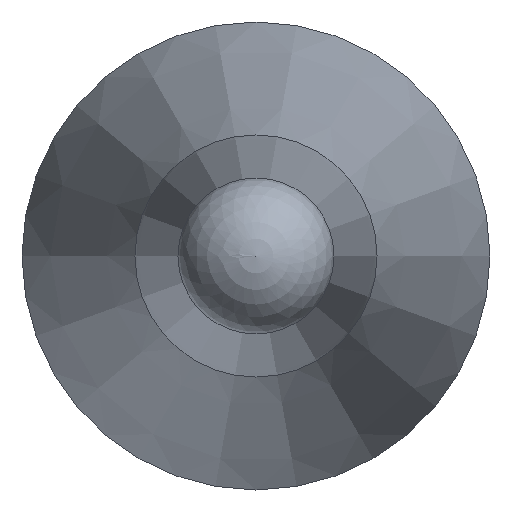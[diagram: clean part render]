
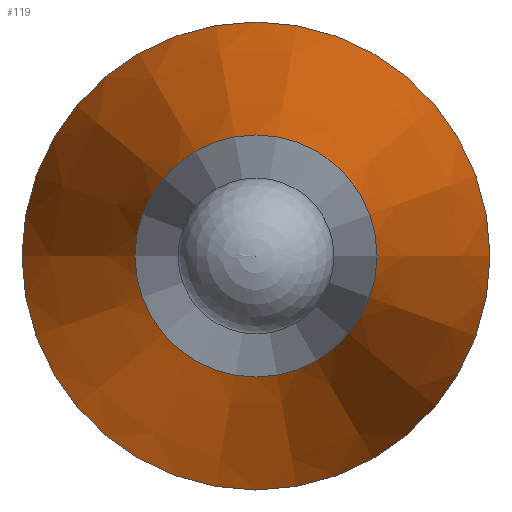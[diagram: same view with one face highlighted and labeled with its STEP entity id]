
A CAD part, left-side view. The second image highlights one B-rep face of the part: STEP entity #119.
In plain terms, the highlighted conical face has half-angle 12 degrees and reference radius 3 mm.
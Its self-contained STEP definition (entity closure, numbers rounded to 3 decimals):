
#97=CONICAL_SURFACE('',#194,3.,12.);
#106=FACE_BOUND('',#134,.T.);
#107=FACE_BOUND('',#135,.T.);
#119=ADVANCED_FACE('',(#106,#107),#97,.T.);
#134=EDGE_LOOP('',(#150));
#135=EDGE_LOOP('',(#151));
#150=ORIENTED_EDGE('',*,*,#172,.T.);
#151=ORIENTED_EDGE('',*,*,#173,.F.);
#164=VERTEX_POINT('',#249);
#165=VERTEX_POINT('',#252);
#172=EDGE_CURVE('',#164,#164,#180,.T.);
#173=EDGE_CURVE('',#165,#165,#181,.T.);
#180=CIRCLE('',#191,1.552);
#181=CIRCLE('',#193,3.);
#191=AXIS2_PLACEMENT_3D('',#248,#215,#216);
#193=AXIS2_PLACEMENT_3D('',#251,#219,#220);
#194=AXIS2_PLACEMENT_3D('',#253,#221,#222);
#215=DIRECTION('',(1.,0.,0.));
#216=DIRECTION('',(0.,1.,0.));
#219=DIRECTION('',(1.,0.,0.));
#220=DIRECTION('',(0.,1.,0.));
#221=DIRECTION('',(1.,0.,0.));
#222=DIRECTION('',(0.,1.,0.));
#248=CARTESIAN_POINT('',(7933.912,6103.288,0.));
#249=CARTESIAN_POINT('',(7933.912,6104.84,0.));
#251=CARTESIAN_POINT('',(7940.726,6103.288,0.));
#252=CARTESIAN_POINT('',(7940.726,6106.288,0.));
#253=CARTESIAN_POINT('',(7940.726,6103.288,0.));
